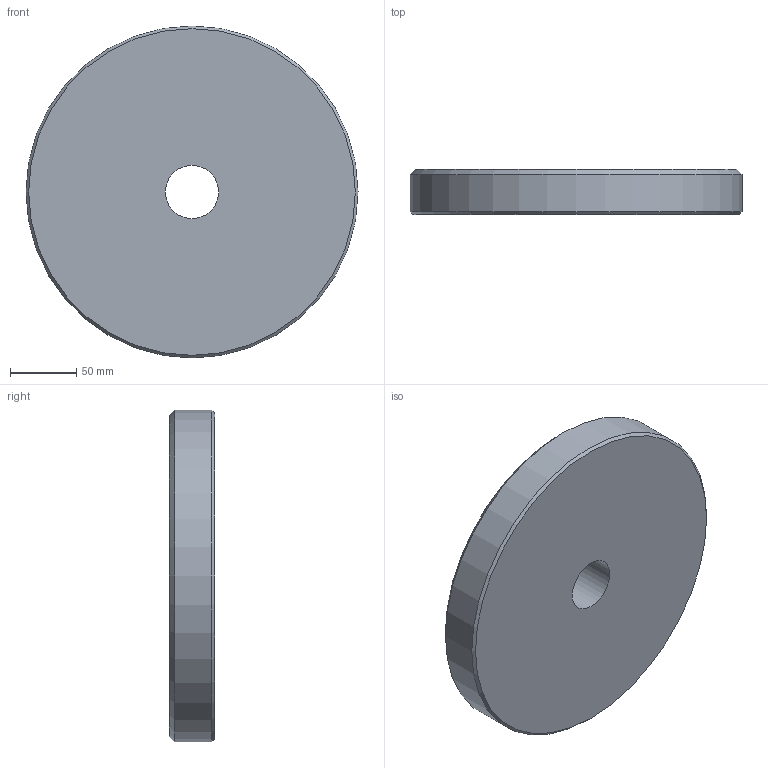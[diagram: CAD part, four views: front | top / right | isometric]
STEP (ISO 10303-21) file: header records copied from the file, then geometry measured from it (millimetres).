
FILE_DESCRIPTION(/* description */ (''),/* implementation_level */ '2;1');
FILE_NAME(/* name */ 'C:\Users\stagistaCAD\Desktop\00002360.stp',/* time_stamp */ '2018-06-15T16:14:37+02:00',/* author */ ('stagistacad'),/* organization */ (''),/* preprocessor_version */ 'ST-DEVELOPER v15.6',/* originating_system */ 'Autodesk Inventor 2015',/* authorisation */ '');
FILE_SCHEMA (('AUTOMOTIVE_DESIGN { 1 0 10303 214 3 1 1 }'));
Length unit declared in the file: millimetre
Products named in the file (1): 00002360
Bounding box: 250 x 34 x 250 mm (x, y, z)
Volume: 1618466.9 mm3; surface area: 123851.1 mm2
Topology: 1 solids, 1 shells, 6 faces, 10 edges, 6 vertices
Faces by surface type: cylinder 2, cone 2, plane 2
Full cylindrical faces by diameter (mm): 40 x1, 250 x1
Entity records: 152 total; most frequent: DIRECTION 26, CARTESIAN_POINT 19, AXIS2_PLACEMENT_3D 13, EDGE_LOOP 12, ORIENTED_EDGE 12, FACE_BOUND 6, FACE_OUTER_BOUND 6, CIRCLE 6
